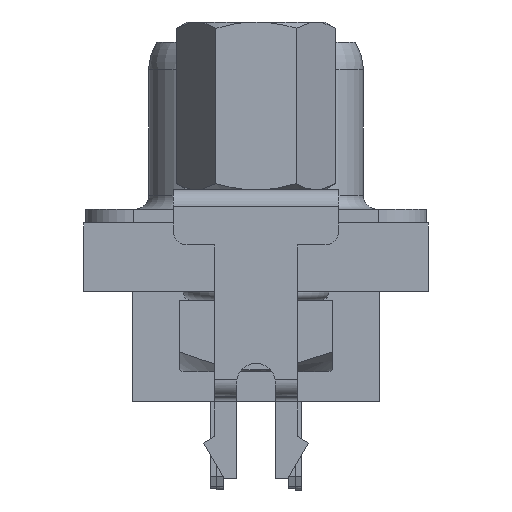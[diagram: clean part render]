
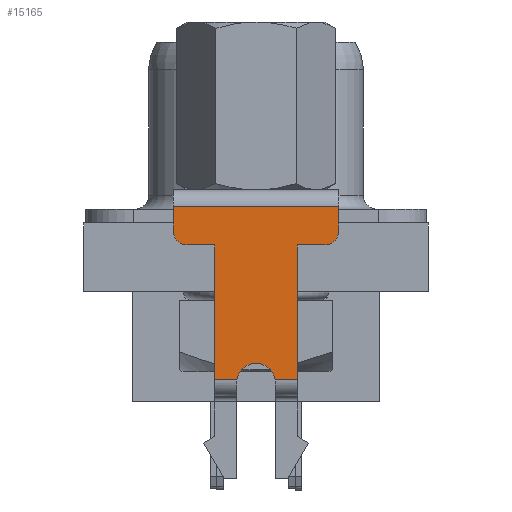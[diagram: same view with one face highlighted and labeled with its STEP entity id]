
A CAD part, left-side view. The second image highlights one B-rep face of the part: STEP entity #15165.
In plain terms, the highlighted planar face has unit normal (-1, 0, 0).
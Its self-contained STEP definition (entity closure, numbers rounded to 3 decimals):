
#1562 = EDGE_CURVE ( 'NONE', #4211, #38104, #14532, .T. ) ;
#1853 = ORIENTED_EDGE ( 'NONE', *, *, #1562, .T. ) ;
#2270 = CARTESIAN_POINT ( 'NONE',  ( -35.25, 1.5, 1.7 ) ) ;
#2855 = CARTESIAN_POINT ( 'NONE',  ( -35.25, 3., 1.7 ) ) ;
#3879 = VECTOR ( 'NONE', #29603, 1000. ) ;
#4211 = VERTEX_POINT ( 'NONE', #16249 ) ;
#4407 = AXIS2_PLACEMENT_3D ( 'NONE', #5049, #20409, #29359 ) ;
#4967 = LINE ( 'NONE', #36879, #23136 ) ;
#5049 = CARTESIAN_POINT ( 'NONE',  ( -35.25, 2.5, 2.2 ) ) ;
#5276 = EDGE_CURVE ( 'NONE', #12366, #31571, #14527, .T. ) ;
#6203 = LINE ( 'NONE', #23881, #32528 ) ;
#6537 = VERTEX_POINT ( 'NONE', #9754 ) ;
#6719 = LINE ( 'NONE', #31262, #35969 ) ;
#7671 = CARTESIAN_POINT ( 'NONE',  ( -35.25, -0.693, -3.2 ) ) ;
#7787 = ORIENTED_EDGE ( 'NONE', *, *, #9390, .F. ) ;
#7792 = DIRECTION ( 'NONE',  ( 0., 0., 1. ) ) ;
#7813 = VECTOR ( 'NONE', #39121, 1000. ) ;
#7883 = DIRECTION ( 'NONE',  ( 0., 0., 1. ) ) ;
#8124 = EDGE_CURVE ( 'NONE', #24660, #21080, #6719, .T. ) ;
#8366 = EDGE_CURVE ( 'NONE', #6537, #31571, #19150, .T. ) ;
#8436 = ORIENTED_EDGE ( 'NONE', *, *, #21610, .F. ) ;
#8494 = CARTESIAN_POINT ( 'NONE',  ( -35.25, 0.7, -3.2 ) ) ;
#9390 = EDGE_CURVE ( 'NONE', #6537, #13413, #18584, .T. ) ;
#9754 = CARTESIAN_POINT ( 'NONE',  ( -35.25, 3., 2.2 ) ) ;
#10399 = VECTOR ( 'NONE', #37585, 1000. ) ;
#10709 = ORIENTED_EDGE ( 'NONE', *, *, #22627, .F. ) ;
#10781 = CARTESIAN_POINT ( 'NONE',  ( -35.25, -2.5, 1.7 ) ) ;
#11668 = AXIS2_PLACEMENT_3D ( 'NONE', #32873, #23471, #17600 ) ;
#11678 = DIRECTION ( 'NONE',  ( -1., 0., 0. ) ) ;
#12366 = VERTEX_POINT ( 'NONE', #2270 ) ;
#13413 = VERTEX_POINT ( 'NONE', #35329 ) ;
#13424 = CARTESIAN_POINT ( 'NONE',  ( -35.25, -1.5, 1.7 ) ) ;
#13548 = VECTOR ( 'NONE', #19523, 1000. ) ;
#13704 = VECTOR ( 'NONE', #28464, 1000. ) ;
#13878 = VERTEX_POINT ( 'NONE', #31212 ) ;
#14527 = LINE ( 'NONE', #2855, #7813 ) ;
#14532 = LINE ( 'NONE', #22738, #13548 ) ;
#15165 = ADVANCED_FACE ( 'NONE', ( #31434 ), #32452, .T. ) ;
#15540 = CARTESIAN_POINT ( 'NONE',  ( -35.25, -3., 3.1 ) ) ;
#16249 = CARTESIAN_POINT ( 'NONE',  ( -35.25, -3., 2.2 ) ) ;
#17226 = EDGE_CURVE ( 'NONE', #24660, #26390, #30033, .T. ) ;
#17270 = LINE ( 'NONE', #8494, #3879 ) ;
#17600 = DIRECTION ( 'NONE',  ( 0., -1., 0. ) ) ;
#17890 = EDGE_CURVE ( 'NONE', #38104, #13413, #39608, .T. ) ;
#18105 = ORIENTED_EDGE ( 'NONE', *, *, #34437, .T. ) ;
#18478 = DIRECTION ( 'NONE',  ( 0., -1., 0. ) ) ;
#18584 = LINE ( 'NONE', #32207, #26663 ) ;
#18681 = ORIENTED_EDGE ( 'NONE', *, *, #17890, .T. ) ;
#19150 = CIRCLE ( 'NONE', #4407, 0.5 ) ;
#19523 = DIRECTION ( 'NONE',  ( 0., 0., 1. ) ) ;
#19558 = ORIENTED_EDGE ( 'NONE', *, *, #32115, .F. ) ;
#20409 = DIRECTION ( 'NONE',  ( -1., 0., 0. ) ) ;
#21059 = CARTESIAN_POINT ( 'NONE',  ( -35.25, -3., 3.1 ) ) ;
#21080 = VERTEX_POINT ( 'NONE', #39136 ) ;
#21610 = EDGE_CURVE ( 'NONE', #33581, #31716, #6203, .T. ) ;
#22627 = EDGE_CURVE ( 'NONE', #31716, #21080, #34816, .T. ) ;
#22738 = CARTESIAN_POINT ( 'NONE',  ( -35.25, -3., -6.8 ) ) ;
#23136 = VECTOR ( 'NONE', #7792, 1000. ) ;
#23143 = ORIENTED_EDGE ( 'NONE', *, *, #23520, .T. ) ;
#23471 = DIRECTION ( 'NONE',  ( -1., 0., 0. ) ) ;
#23520 = EDGE_CURVE ( 'NONE', #33581, #4211, #27814, .T. ) ;
#23596 = ORIENTED_EDGE ( 'NONE', *, *, #17226, .F. ) ;
#23881 = CARTESIAN_POINT ( 'NONE',  ( -35.25, -3., 1.7 ) ) ;
#24083 = CARTESIAN_POINT ( 'NONE',  ( -35.25, 2.5, 1.7 ) ) ;
#24263 = CARTESIAN_POINT ( 'NONE',  ( -35.25, -2.5, 2.2 ) ) ;
#24660 = VERTEX_POINT ( 'NONE', #7671 ) ;
#25939 = ORIENTED_EDGE ( 'NONE', *, *, #5276, .F. ) ;
#26390 = VERTEX_POINT ( 'NONE', #27673 ) ;
#26663 = VECTOR ( 'NONE', #7883, 1000. ) ;
#27673 = CARTESIAN_POINT ( 'NONE',  ( -35.25, 0.693, -3.2 ) ) ;
#27814 = CIRCLE ( 'NONE', #29550, 0.5 ) ;
#27902 = DIRECTION ( 'NONE',  ( 0., -1., 0. ) ) ;
#28464 = DIRECTION ( 'NONE',  ( 0., 1., 0. ) ) ;
#28466 = EDGE_LOOP ( 'NONE', ( #23596, #38389, #10709, #8436, #23143, #1853, #18681, #7787, #39657, #25939, #19558, #18105 ) ) ;
#29359 = DIRECTION ( 'NONE',  ( 0., -1., 0. ) ) ;
#29550 = AXIS2_PLACEMENT_3D ( 'NONE', #24263, #31311, #34673 ) ;
#29603 = DIRECTION ( 'NONE',  ( 0., -1., 0. ) ) ;
#29975 = CARTESIAN_POINT ( 'NONE',  ( -35.25, 0., -3.3 ) ) ;
#30033 = CIRCLE ( 'NONE', #30169, 0.7 ) ;
#30169 = AXIS2_PLACEMENT_3D ( 'NONE', #29975, #11678, #18478 ) ;
#31212 = CARTESIAN_POINT ( 'NONE',  ( -35.25, 1.5, -3.2 ) ) ;
#31262 = CARTESIAN_POINT ( 'NONE',  ( -35.25, -1.5, -3.2 ) ) ;
#31311 = DIRECTION ( 'NONE',  ( -1., 0., 0. ) ) ;
#31434 = FACE_OUTER_BOUND ( 'NONE', #28466, .T. ) ;
#31571 = VERTEX_POINT ( 'NONE', #24083 ) ;
#31716 = VERTEX_POINT ( 'NONE', #13424 ) ;
#32115 = EDGE_CURVE ( 'NONE', #13878, #12366, #4967, .T. ) ;
#32207 = CARTESIAN_POINT ( 'NONE',  ( -35.25, 3., -6.8 ) ) ;
#32452 = PLANE ( 'NONE',  #11668 ) ;
#32528 = VECTOR ( 'NONE', #32744, 1000. ) ;
#32744 = DIRECTION ( 'NONE',  ( 0., 1., 0. ) ) ;
#32873 = CARTESIAN_POINT ( 'NONE',  ( -35.25, -3., -6.8 ) ) ;
#33581 = VERTEX_POINT ( 'NONE', #10781 ) ;
#34437 = EDGE_CURVE ( 'NONE', #13878, #26390, #17270, .T. ) ;
#34673 = DIRECTION ( 'NONE',  ( 0., -1., 0. ) ) ;
#34816 = LINE ( 'NONE', #34849, #10399 ) ;
#34849 = CARTESIAN_POINT ( 'NONE',  ( -35.25, -1.5, 1.7 ) ) ;
#35329 = CARTESIAN_POINT ( 'NONE',  ( -35.25, 3., 3.1 ) ) ;
#35969 = VECTOR ( 'NONE', #27902, 1000. ) ;
#36879 = CARTESIAN_POINT ( 'NONE',  ( -35.25, 1.5, 1.7 ) ) ;
#37585 = DIRECTION ( 'NONE',  ( 0., 0., -1. ) ) ;
#38104 = VERTEX_POINT ( 'NONE', #21059 ) ;
#38389 = ORIENTED_EDGE ( 'NONE', *, *, #8124, .T. ) ;
#39121 = DIRECTION ( 'NONE',  ( 0., 1., 0. ) ) ;
#39136 = CARTESIAN_POINT ( 'NONE',  ( -35.25, -1.5, -3.2 ) ) ;
#39608 = LINE ( 'NONE', #15540, #13704 ) ;
#39657 = ORIENTED_EDGE ( 'NONE', *, *, #8366, .T. ) ;
